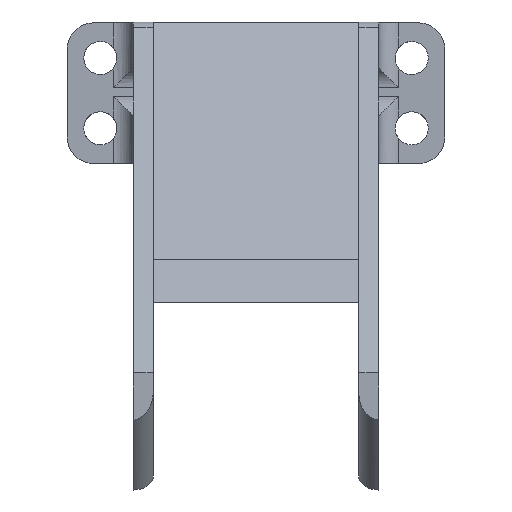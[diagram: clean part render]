
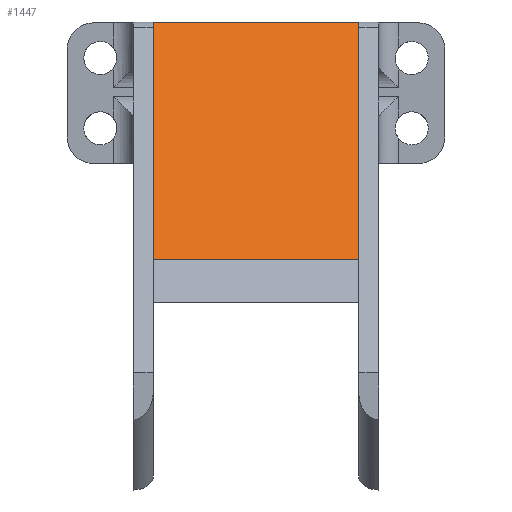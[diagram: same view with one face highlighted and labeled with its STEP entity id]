
A CAD part, top view. The second image highlights one B-rep face of the part: STEP entity #1447.
In plain terms, the highlighted planar face has unit normal (0, 0.707, 0.707).
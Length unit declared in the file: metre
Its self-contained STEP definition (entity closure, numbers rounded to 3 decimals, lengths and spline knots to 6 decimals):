
#146=ORIENTED_EDGE('',*,*,#580,.T.);
#147=ORIENTED_EDGE('',*,*,#581,.T.);
#148=ORIENTED_EDGE('',*,*,#582,.F.);
#149=ORIENTED_EDGE('',*,*,#583,.T.);
#580=EDGE_CURVE('',#797,#798,#935,.T.);
#581=EDGE_CURVE('',#798,#799,#936,.T.);
#582=EDGE_CURVE('',#800,#799,#937,.T.);
#583=EDGE_CURVE('',#800,#797,#938,.T.);
#797=VERTEX_POINT('',#2170);
#798=VERTEX_POINT('',#2171);
#799=VERTEX_POINT('',#2173);
#800=VERTEX_POINT('',#2175);
#935=LINE('',#2169,#1096);
#936=LINE('',#2172,#1097);
#937=LINE('',#2174,#1098);
#938=LINE('',#2176,#1099);
#1096=VECTOR('',#1721,1.);
#1097=VECTOR('',#1722,1.);
#1098=VECTOR('',#1723,1.);
#1099=VECTOR('',#1724,1.);
#1224=EDGE_LOOP('',(#146,#147,#148,#149));
#1317=FACE_BOUND('',#1224,.T.);
#1402=PLANE('',#1539);
#1447=ADVANCED_FACE('',(#1317),#1402,.T.);
#1539=AXIS2_PLACEMENT_3D('',#2168,#1719,#1720);
#1719=DIRECTION('',(0.,0.707,0.707));
#1720=DIRECTION('',(0.,-0.707,0.707));
#1721=DIRECTION('',(0.,0.707,-0.707));
#1722=DIRECTION('',(-1.,0.,0.));
#1723=DIRECTION('',(0.,0.707,-0.707));
#1724=DIRECTION('',(1.,0.,0.));
#2168=CARTESIAN_POINT('',(0.0155,-0.046027,0.081555));
#2169=CARTESIAN_POINT('',(0.0155,-0.046027,0.081555));
#2170=CARTESIAN_POINT('',(0.0155,-0.062384,0.097911));
#2171=CARTESIAN_POINT('',(0.0155,-0.026582,0.062109));
#2172=CARTESIAN_POINT('',(0.0155,-0.026582,0.062109));
#2173=CARTESIAN_POINT('',(-0.0155,-0.026582,0.062109));
#2174=CARTESIAN_POINT('',(-0.0155,-0.046027,0.081555));
#2175=CARTESIAN_POINT('',(-0.0155,-0.062384,0.097911));
#2176=CARTESIAN_POINT('',(0.0155,-0.062384,0.097911));
